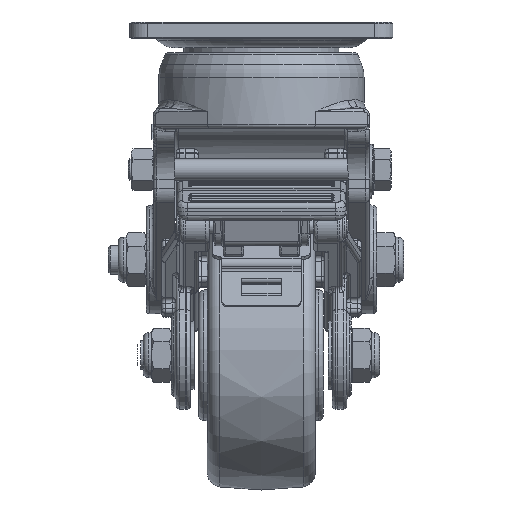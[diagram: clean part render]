
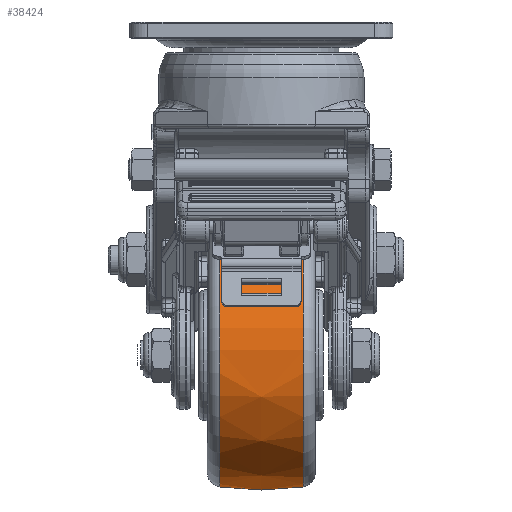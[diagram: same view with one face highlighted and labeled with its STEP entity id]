
A CAD part, left-side view. The second image highlights one B-rep face of the part: STEP entity #38424.
In plain terms, the highlighted free-form (B-spline) face has degree [2, 2] with [3, 9] control points.
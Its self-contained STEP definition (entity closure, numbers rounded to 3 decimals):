
#15=(
BOUNDED_SURFACE()
B_SPLINE_SURFACE(2,2,((#61751,#61752,#61753,#61754,#61755,#61756,#61757,
#61758,#61759),(#61760,#61761,#61762,#61763,#61764,#61765,#61766,#61767,
#61768),(#61769,#61770,#61771,#61772,#61773,#61774,#61775,#61776,#61777)),
 .UNSPECIFIED.,.F.,.T.,.F.)
B_SPLINE_SURFACE_WITH_KNOTS((3,3),(3,2,2,2,3),(-0.156,0.156),
(-3.142,-1.571,0.,1.571,3.142),
 .UNSPECIFIED.)
GEOMETRIC_REPRESENTATION_ITEM()
RATIONAL_B_SPLINE_SURFACE(((1.,0.707,1.,0.707,1.,
0.707,1.,0.707,1.),(0.988,0.699,
0.988,0.699,0.988,0.699,
0.988,0.699,0.988),(1.,0.707,
1.,0.707,1.,0.707,1.,0.707,1.)))
REPRESENTATION_ITEM('')
SURFACE()
);
#4556=FACE_OUTER_BOUND('',#7032,.T.);
#7032=EDGE_LOOP('',(#29393,#29394,#29395,#29396,#29397,#29398,#29399,#29400));
#14672=CIRCLE('',#40887,36.594);
#14673=CIRCLE('',#40888,36.594);
#14674=CIRCLE('',#40889,36.594);
#14675=CIRCLE('',#40890,75.);
#14676=CIRCLE('',#40891,36.594);
#14677=CIRCLE('',#40892,36.594);
#14678=CIRCLE('',#40893,36.594);
#17072=VERTEX_POINT('',#61744);
#17073=VERTEX_POINT('',#61746);
#17074=VERTEX_POINT('',#61748);
#17075=VERTEX_POINT('',#61778);
#17076=VERTEX_POINT('',#61780);
#17077=VERTEX_POINT('',#61782);
#21425=EDGE_CURVE('',#17072,#17073,#14672,.T.);
#21426=EDGE_CURVE('',#17073,#17074,#14673,.T.);
#21427=EDGE_CURVE('',#17074,#17072,#14674,.T.);
#21428=EDGE_CURVE('',#17072,#17075,#14675,.T.);
#21429=EDGE_CURVE('',#17075,#17076,#14676,.T.);
#21430=EDGE_CURVE('',#17076,#17077,#14677,.T.);
#21431=EDGE_CURVE('',#17077,#17075,#14678,.T.);
#29393=ORIENTED_EDGE('',*,*,#21426,.F.);
#29394=ORIENTED_EDGE('',*,*,#21425,.F.);
#29395=ORIENTED_EDGE('',*,*,#21428,.T.);
#29396=ORIENTED_EDGE('',*,*,#21429,.T.);
#29397=ORIENTED_EDGE('',*,*,#21430,.T.);
#29398=ORIENTED_EDGE('',*,*,#21431,.T.);
#29399=ORIENTED_EDGE('',*,*,#21428,.F.);
#29400=ORIENTED_EDGE('',*,*,#21427,.F.);
#38424=ADVANCED_FACE('',(#4556),#15,.F.);
#40887=AXIS2_PLACEMENT_3D('',#61747,#46307,#46308);
#40888=AXIS2_PLACEMENT_3D('',#61749,#46309,#46310);
#40889=AXIS2_PLACEMENT_3D('',#61750,#46311,#46312);
#40890=AXIS2_PLACEMENT_3D('',#61779,#46313,#46314);
#40891=AXIS2_PLACEMENT_3D('',#61781,#46315,#46316);
#40892=AXIS2_PLACEMENT_3D('',#61783,#46317,#46318);
#40893=AXIS2_PLACEMENT_3D('',#61784,#46319,#46320);
#46307=DIRECTION('center_axis',(0.,1.,0.));
#46308=DIRECTION('ref_axis',(0.308,0.,-0.951));
#46309=DIRECTION('center_axis',(0.,1.,0.));
#46310=DIRECTION('ref_axis',(0.308,0.,-0.951));
#46311=DIRECTION('center_axis',(0.,1.,0.));
#46312=DIRECTION('ref_axis',(0.308,0.,-0.951));
#46313=DIRECTION('center_axis',(0.951,0.,0.308));
#46314=DIRECTION('ref_axis',(-0.308,0.,0.951));
#46315=DIRECTION('center_axis',(0.,1.,0.));
#46316=DIRECTION('ref_axis',(0.308,0.,-0.951));
#46317=DIRECTION('center_axis',(0.,1.,0.));
#46318=DIRECTION('ref_axis',(0.308,0.,-0.951));
#46319=DIRECTION('center_axis',(0.,1.,0.));
#46320=DIRECTION('ref_axis',(0.308,0.,-0.951));
#61744=CARTESIAN_POINT('',(-46.265,11.62,-57.688));
#61746=CARTESIAN_POINT('',(-0.181,11.62,-81.238));
#61747=CARTESIAN_POINT('Origin',(-34.998,11.62,-92.505));
#61748=CARTESIAN_POINT('',(-69.815,11.62,-103.771));
#61749=CARTESIAN_POINT('Origin',(-34.998,11.62,-92.505));
#61750=CARTESIAN_POINT('Origin',(-34.998,11.62,-92.505));
#61751=CARTESIAN_POINT('Ctrl Pts',(-46.265,-11.62,
-57.688));
#61752=CARTESIAN_POINT('Ctrl Pts',(-11.447,-11.62,
-46.421));
#61753=CARTESIAN_POINT('Ctrl Pts',(-0.181,-11.62,
-81.238));
#61754=CARTESIAN_POINT('Ctrl Pts',(11.085,-11.62,-116.055));
#61755=CARTESIAN_POINT('Ctrl Pts',(-23.732,-11.62,
-127.322));
#61756=CARTESIAN_POINT('Ctrl Pts',(-58.549,-11.62,-138.588));
#61757=CARTESIAN_POINT('Ctrl Pts',(-69.815,-11.62,
-103.771));
#61758=CARTESIAN_POINT('Ctrl Pts',(-81.082,-11.62,-68.954));
#61759=CARTESIAN_POINT('Ctrl Pts',(-46.265,-11.62,
-57.688));
#61760=CARTESIAN_POINT('Ctrl Pts',(-46.826,0.,
-55.954));
#61761=CARTESIAN_POINT('Ctrl Pts',(-10.275,0.,
-44.127));
#61762=CARTESIAN_POINT('Ctrl Pts',(1.552,0.,
-80.677));
#61763=CARTESIAN_POINT('Ctrl Pts',(13.38,0.,
-117.228));
#61764=CARTESIAN_POINT('Ctrl Pts',(-23.171,0.,
-129.055));
#61765=CARTESIAN_POINT('Ctrl Pts',(-59.722,0.,
-140.883));
#61766=CARTESIAN_POINT('Ctrl Pts',(-71.549,0.,
-104.332));
#61767=CARTESIAN_POINT('Ctrl Pts',(-83.376,0.,
-67.781));
#61768=CARTESIAN_POINT('Ctrl Pts',(-46.826,0.,
-55.954));
#61769=CARTESIAN_POINT('Ctrl Pts',(-46.265,11.62,-57.688));
#61770=CARTESIAN_POINT('Ctrl Pts',(-11.447,11.62,-46.421));
#61771=CARTESIAN_POINT('Ctrl Pts',(-0.181,11.62,-81.238));
#61772=CARTESIAN_POINT('Ctrl Pts',(11.085,11.62,-116.055));
#61773=CARTESIAN_POINT('Ctrl Pts',(-23.732,11.62,-127.322));
#61774=CARTESIAN_POINT('Ctrl Pts',(-58.549,11.62,-138.588));
#61775=CARTESIAN_POINT('Ctrl Pts',(-69.815,11.62,-103.771));
#61776=CARTESIAN_POINT('Ctrl Pts',(-81.082,11.62,-68.954));
#61777=CARTESIAN_POINT('Ctrl Pts',(-46.265,11.62,-57.688));
#61778=CARTESIAN_POINT('',(-46.265,-11.62,-57.688));
#61779=CARTESIAN_POINT('Origin',(-23.453,0.,
-128.183));
#61780=CARTESIAN_POINT('',(-0.181,-11.62,-81.238));
#61781=CARTESIAN_POINT('Origin',(-34.998,-11.62,-92.505));
#61782=CARTESIAN_POINT('',(-69.815,-11.62,-103.771));
#61783=CARTESIAN_POINT('Origin',(-34.998,-11.62,-92.505));
#61784=CARTESIAN_POINT('Origin',(-34.998,-11.62,-92.505));
